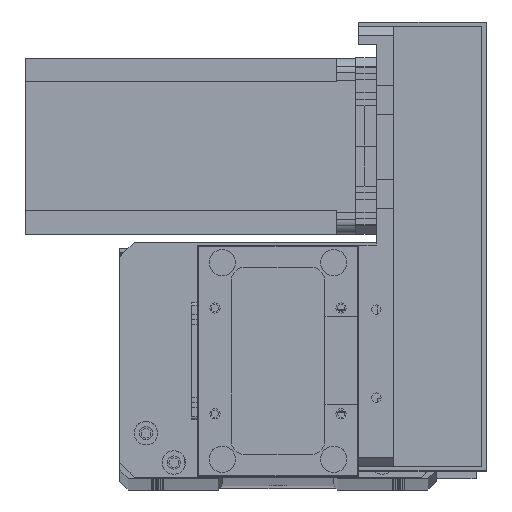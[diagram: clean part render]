
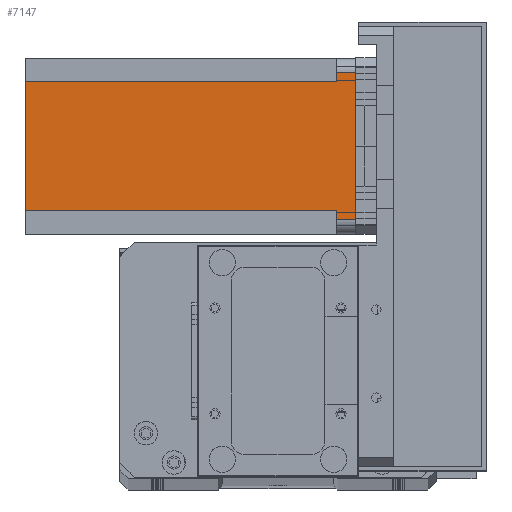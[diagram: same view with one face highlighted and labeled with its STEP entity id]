
A CAD part, top view. The second image highlights one B-rep face of the part: STEP entity #7147.
In plain terms, the highlighted planar face has unit normal (0, 0, 1) as drawn and (0, 1, 0) by its records, which use the part's own axes.
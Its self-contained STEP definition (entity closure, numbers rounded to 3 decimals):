
#362 = CARTESIAN_POINT ( 'NONE',  ( 8., 60., -6.5 ) ) ;
#766 = CARTESIAN_POINT ( 'NONE',  ( 0., 60., 0. ) ) ;
#880 = DIRECTION ( 'NONE',  ( -1., 0., 0. ) ) ;
#1026 = LINE ( 'NONE', #2334, #26920 ) ;
#2034 = LINE ( 'NONE', #5437, #14990 ) ;
#2334 = CARTESIAN_POINT ( 'NONE',  ( 52., 60., -6.5 ) ) ;
#2528 = ORIENTED_EDGE ( 'NONE', *, *, #31734, .F. ) ;
#2644 = DIRECTION ( 'NONE',  ( -1., 0., 0. ) ) ;
#2807 = EDGE_LOOP ( 'NONE', ( #31008, #8518, #2528, #15637, #5344, #19139, #24871, #22291 ) ) ;
#2959 = LINE ( 'NONE', #30980, #9868 ) ;
#3064 = VERTEX_POINT ( 'NONE', #21175 ) ;
#3222 = VECTOR ( 'NONE', #13180, 1000. ) ;
#3271 = VERTEX_POINT ( 'NONE', #12799 ) ;
#5344 = ORIENTED_EDGE ( 'NONE', *, *, #32365, .T. ) ;
#5437 = CARTESIAN_POINT ( 'NONE',  ( 55., 60., -112.5 ) ) ;
#5605 = VECTOR ( 'NONE', #880, 1000. ) ;
#6994 = LINE ( 'NONE', #16785, #26853 ) ;
#7147 = ADVANCED_FACE ( 'NONE', ( #31808 ), #20586, .T. ) ;
#7635 = CARTESIAN_POINT ( 'NONE',  ( 0., 60., -112.5 ) ) ;
#8518 = ORIENTED_EDGE ( 'NONE', *, *, #11403, .T. ) ;
#9074 = DIRECTION ( 'NONE',  ( 0., 0., 1. ) ) ;
#9868 = VECTOR ( 'NONE', #12936, 1000. ) ;
#10117 = LINE ( 'NONE', #18285, #3222 ) ;
#10260 = DIRECTION ( 'NONE',  ( 0., 0., 1. ) ) ;
#10641 = DIRECTION ( 'NONE',  ( 0., 0., -1. ) ) ;
#11403 = EDGE_CURVE ( 'NONE', #22207, #14197, #2034, .T. ) ;
#12504 = LINE ( 'NONE', #766, #5605 ) ;
#12524 = CARTESIAN_POINT ( 'NONE',  ( 8., 60., -112.5 ) ) ;
#12799 = CARTESIAN_POINT ( 'NONE',  ( 52., 60., -6.5 ) ) ;
#12936 = DIRECTION ( 'NONE',  ( -1., 0., 0. ) ) ;
#13180 = DIRECTION ( 'NONE',  ( 0., 0., -1. ) ) ;
#13536 = CARTESIAN_POINT ( 'NONE',  ( 52., 60., -112.5 ) ) ;
#14197 = VERTEX_POINT ( 'NONE', #33054 ) ;
#14530 = CARTESIAN_POINT ( 'NONE',  ( 55., 60., 0. ) ) ;
#14547 = EDGE_CURVE ( 'NONE', #22207, #3064, #12504, .T. ) ;
#14990 = VECTOR ( 'NONE', #10641, 1000. ) ;
#15340 = DIRECTION ( 'NONE',  ( 1., 0., 0. ) ) ;
#15637 = ORIENTED_EDGE ( 'NONE', *, *, #27271, .F. ) ;
#15806 = VERTEX_POINT ( 'NONE', #13536 ) ;
#16785 = CARTESIAN_POINT ( 'NONE',  ( 5., 60., -112.5 ) ) ;
#17267 = AXIS2_PLACEMENT_3D ( 'NONE', #7635, #25744, #10260 ) ;
#18285 = CARTESIAN_POINT ( 'NONE',  ( 8., 60., -112.5 ) ) ;
#18440 = DIRECTION ( 'NONE',  ( 0., 0., 1. ) ) ;
#19139 = ORIENTED_EDGE ( 'NONE', *, *, #27875, .F. ) ;
#19227 = LINE ( 'NONE', #23344, #32081 ) ;
#19677 = VERTEX_POINT ( 'NONE', #25298 ) ;
#20586 = PLANE ( 'NONE',  #17267 ) ;
#20651 = VERTEX_POINT ( 'NONE', #362 ) ;
#21116 = VECTOR ( 'NONE', #18440, 1000. ) ;
#21175 = CARTESIAN_POINT ( 'NONE',  ( 5., 60., 0. ) ) ;
#22207 = VERTEX_POINT ( 'NONE', #14530 ) ;
#22291 = ORIENTED_EDGE ( 'NONE', *, *, #32697, .T. ) ;
#23344 = CARTESIAN_POINT ( 'NONE',  ( 8., 60., -6.5 ) ) ;
#23398 = EDGE_CURVE ( 'NONE', #20651, #19677, #19227, .T. ) ;
#24871 = ORIENTED_EDGE ( 'NONE', *, *, #23398, .T. ) ;
#25298 = CARTESIAN_POINT ( 'NONE',  ( 5., 60., -6.5 ) ) ;
#25744 = DIRECTION ( 'NONE',  ( 0., 1., 0. ) ) ;
#26099 = CARTESIAN_POINT ( 'NONE',  ( 52., 60., -112.5 ) ) ;
#26853 = VECTOR ( 'NONE', #9074, 1000. ) ;
#26920 = VECTOR ( 'NONE', #15340, 1000. ) ;
#27271 = EDGE_CURVE ( 'NONE', #15806, #3271, #28732, .T. ) ;
#27875 = EDGE_CURVE ( 'NONE', #20651, #28905, #10117, .T. ) ;
#28732 = LINE ( 'NONE', #26099, #21116 ) ;
#28905 = VERTEX_POINT ( 'NONE', #12524 ) ;
#30980 = CARTESIAN_POINT ( 'NONE',  ( 0., 60., -112.5 ) ) ;
#31008 = ORIENTED_EDGE ( 'NONE', *, *, #14547, .F. ) ;
#31734 = EDGE_CURVE ( 'NONE', #3271, #14197, #1026, .T. ) ;
#31808 = FACE_OUTER_BOUND ( 'NONE', #2807, .T. ) ;
#32081 = VECTOR ( 'NONE', #2644, 1000. ) ;
#32365 = EDGE_CURVE ( 'NONE', #15806, #28905, #2959, .T. ) ;
#32697 = EDGE_CURVE ( 'NONE', #19677, #3064, #6994, .T. ) ;
#33054 = CARTESIAN_POINT ( 'NONE',  ( 55., 60., -6.5 ) ) ;
